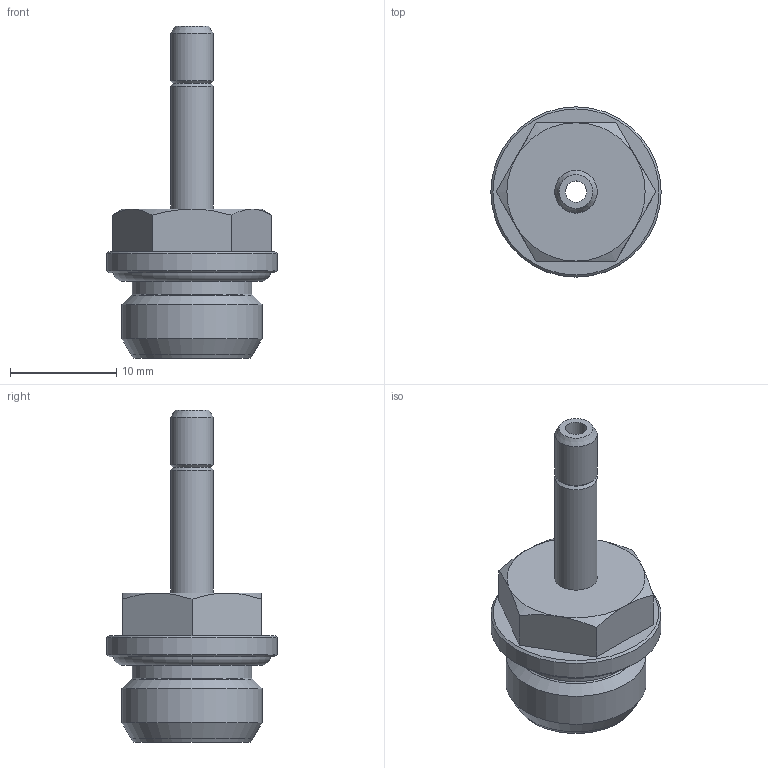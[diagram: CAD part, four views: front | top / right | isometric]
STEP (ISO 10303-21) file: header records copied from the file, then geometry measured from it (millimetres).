
FILE_DESCRIPTION(('Bauteilbeschreibung','HiCAD-Model','HiCAD-STEP-TRANSLATION','Bauteilbeschreibung'),'2;1');
FILE_NAME('B:/ABGLEICH/ZEICHNUNGEN/STEP FÜR INTERNET/STEP/IPSO 06/200603-N_IPSO_06_4_1-4.STP','2012-02-28T16:31:40+00:00',('Konstrukteur'),('Konstrukteur Firma GmbH'),' HiCAD neXt 2008, Step 3.1.1401.2J ','HiCAD neXt 2008','confidential');
FILE_SCHEMA(('AUTOMOTIVE_DESIGN { 1 2 10303 214 0 1 1 1 }'));
Length unit declared in the file: millimetre
Products named in the file (5): A00603_N_IPSO_06_4_1_4; A00603; A006030; G 1_4; OR 11_11X1_78
Assembly tree (4 placements, depth 3):
  A00603_N_IPSO_06_4_1_4
    A00603
    A006030
      G 1_4
    OR 11_11X1_78
Bounding box: 16 x 16 x 31.2 mm (x, y, z)
Volume: 1605 mm3; surface area: 2257.4 mm2
Topology: 3 solids, 3 shells, 45 faces, 98 edges, 59 vertices
Faces by surface type: cone 18, plane 12, cylinder 9, torus 6
Full cylindrical faces by diameter (mm): 2 x1, 4 x2, 7.5 x1, 11.2 x1, 11.445 x2, 13.157 x1, 16 x1
Entity records: 1444 total; most frequent: DIRECTION 202, CARTESIAN_POINT 193, ORIENTED_EDGE 132, AXIS2_PLACEMENT_3D 95, EDGE_LOOP 74, EDGE_CURVE 66, COLOUR_RGB 61, PRESENTATION_STYLE_ASSIGNMENT 61
